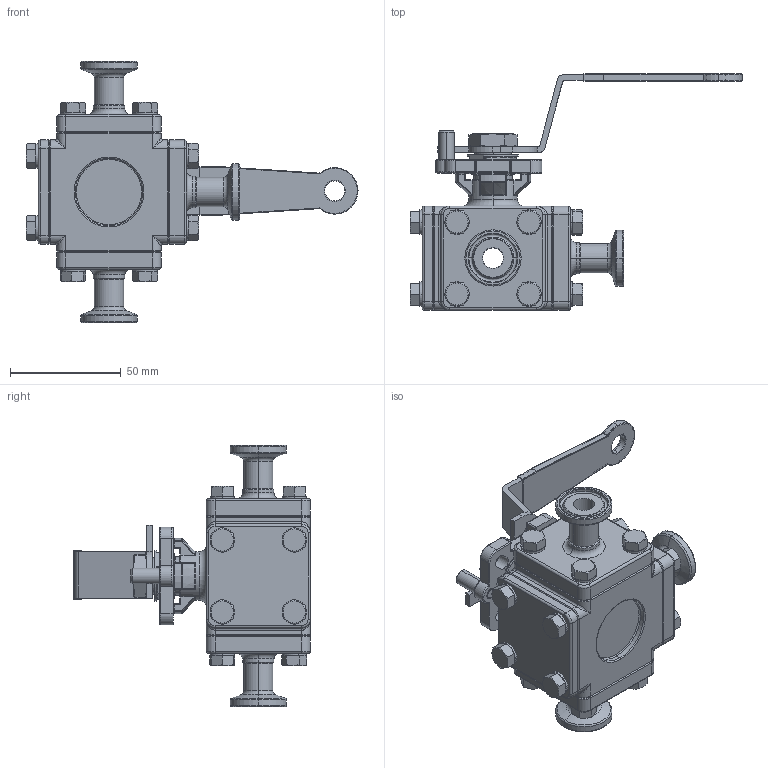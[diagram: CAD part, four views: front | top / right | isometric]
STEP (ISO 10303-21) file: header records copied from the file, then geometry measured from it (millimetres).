
FILE_DESCRIPTION (( 'STEP AP203' ), '1' );
FILE_NAME ('EG93CCC-6.5-T.STEP', '2019-07-02T02:24:46', ( '' ), ( '' ), 'SwSTEP 2.0', 'SolidWorks 2014', '' );
FILE_SCHEMA (( 'CONFIG_CONTROL_DESIGN' ));
Length unit declared in the file: millimetre
Products named in the file (24): 9.RING0.5-0.75; 20.SEAT BACK0.5; 6.THRUST WASHER0.5; 11.STOP PIN0.5-1.0; 4.SEAT1-0.5; 17.LOCKING TAB0.5-0.75; 15.SPRING WASHER0.5-0.75; EG93CCC-6.5-T; 1.3WAY-BODY0.5; 8.STEM PACKING0.5; 22.SEAT-L-0.5; 13.STEM0.5; 18.THINNER NUT0.5-.0.75; 19.3WAY-CAP0.5; 3.3WAY-BALL-0.5-T; 21.PLAIN WASHER0.5-0.75; 7.O-RING0.5-1.0; 16.BOLT0.5; 5.GASKET0.5; 14.HANDLE0.5-0.75; 2.3WAY-CAP-C-0.5; 22.SEAT-R-0.5; 12.3WAY-NUT0.5-.0.75; 10.BEVEL WASHER0.5-0.75
Assembly tree (58 placements, depth 2):
  EG93CCC-6.5-T
    1.3WAY-BODY0.5
    13.STEM0.5
    6.THRUST WASHER0.5
    7.O-RING0.5-1.0
    9.RING0.5-0.75
    8.STEM PACKING0.5
    10.BEVEL WASHER0.5-0.75  x2
    17.LOCKING TAB0.5-0.75
    18.THINNER NUT0.5-.0.75
    21.PLAIN WASHER0.5-0.75
    20.SEAT BACK0.5
    22.SEAT-L-0.5
    22.SEAT-R-0.5
    4.SEAT1-0.5  x2
    5.GASKET0.5  x2
    2.3WAY-CAP-C-0.5  x3
    19.3WAY-CAP0.5
    16.BOLT0.5  x16
    15.SPRING WASHER0.5-0.75  x16
    14.HANDLE0.5-0.75
    11.STOP PIN0.5-1.0
    12.3WAY-NUT0.5-.0.75
    3.3WAY-BALL-0.5-T
Bounding box: 150 x 106.87 x 118 mm (x, y, z)
Volume: 230199.1 mm3; surface area: 111883.4 mm2
Topology: 59 solids, 59 shells, 1550 faces, 3477 edges, 2040 vertices
Faces by surface type: cylinder 573, plane 401, cone 238, torus 233, sphere 55, bspline 50
Entity records: 34619 total; most frequent: CARTESIAN_POINT 8106, DIRECTION 5312, ORIENTED_EDGE 4542, EDGE_CURVE 2271, AXIS2_PLACEMENT_3D 2256, VERTEX_POINT 1342, CIRCLE 1244, EDGE_LOOP 1111
